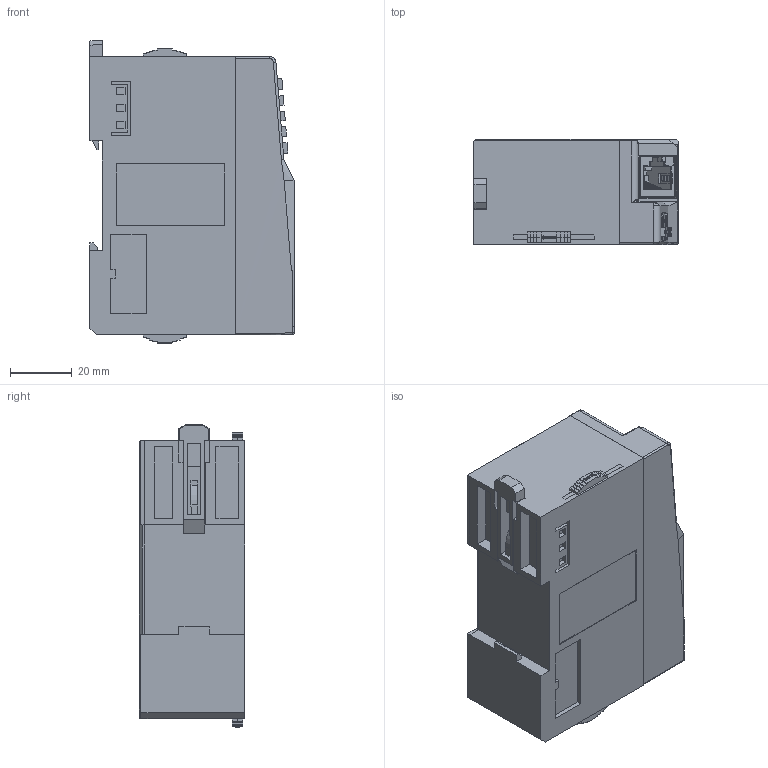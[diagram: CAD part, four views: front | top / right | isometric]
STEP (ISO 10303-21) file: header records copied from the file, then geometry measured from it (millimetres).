
FILE_DESCRIPTION(/* description */ (''),/* implementation_level */ '2;1');
FILE_NAME(/* name */ 'EX-EIP适配器.stp',/* time_stamp */ '2022-01-17T14:39:50+08:00',/* author */ (''),/* organization */ (''),/* preprocessor_version */ 'ST-DEVELOPER v16',/* originating_system */ 'SIEMENS PLM Software NX 10.0',/* authorisation */ '');
FILE_SCHEMA (('AP203_CONFIGURATION_CONTROLLED_3D_DESIGN_OF_MECHANICAL_PARTS_AND_ASSEMBLIES_MIM_LF { 1 0 10303 403 2 1 2}'));
Products named in the file (1): 73494B50E7E6tzla
Bounding box: 66.02 x 34.02 x 97.82 mm (x, y, z)
Volume: 174220.5 mm3; surface area: 46897 mm2
Topology: 16 solids, 16 shells, 3389 faces, 9316 edges, 6095 vertices
Faces by surface type: plane 2197, cylinder 770, bspline 329, cone 74, sphere 10, torus 9
Full cylindrical faces by diameter (mm): 0.6 x3, 1.2 x5, 3.2 x3, 3.3 x3, 6.05 x3, 6.15 x3
Entity records: 119021 total; most frequent: CARTESIAN_POINT 33675, ORIENTED_EDGE 18550, DIRECTION 16537, EDGE_CURVE 9275, LINE 6713, VECTOR 6713, VERTEX_POINT 6089, AXIS2_PLACEMENT_3D 4912
